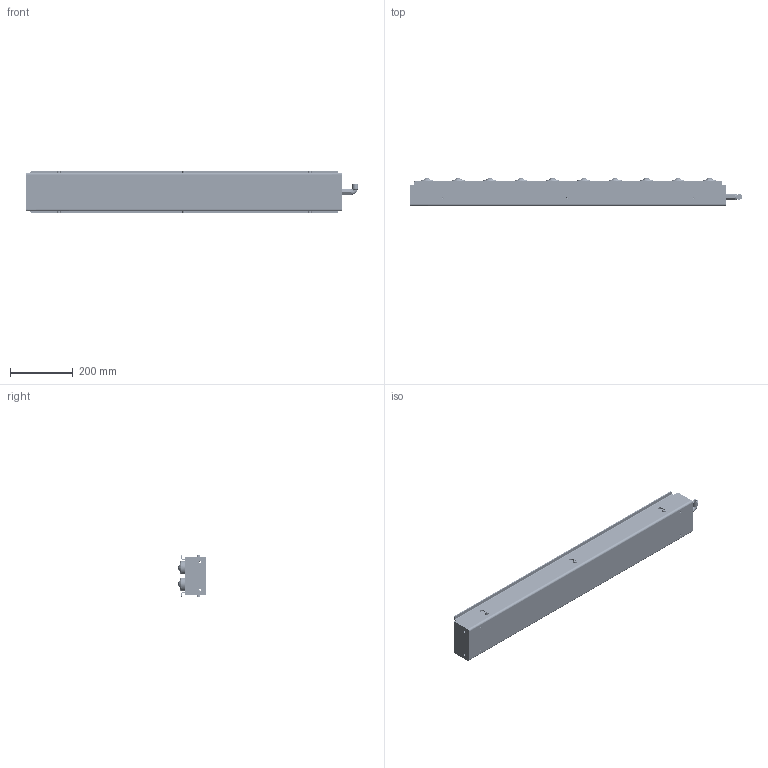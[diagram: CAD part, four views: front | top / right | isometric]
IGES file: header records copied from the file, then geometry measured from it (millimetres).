
Start section: 3D InterOp IGES (Version 21 0 2), Spatial Corp. Copyright (c) 1999-2007.
Global section: file name: ALB-BB1008_L.igs; native system: Spatial Corp.; preprocessor: 3D InterOp GENERIC/IGES 3.0; author: Noname; organization: Noname; date: 20130319.171724; units: millimetre
Bounding box: 1058 x 90 x 135 mm (x, y, z)
Surface area: 1493447.6 mm2 (no closed solid volume)
Topology: 0 solids, 0 shells, 1376 faces, 13946 edges, 13934 vertices
Faces by surface type: bspline 1376
